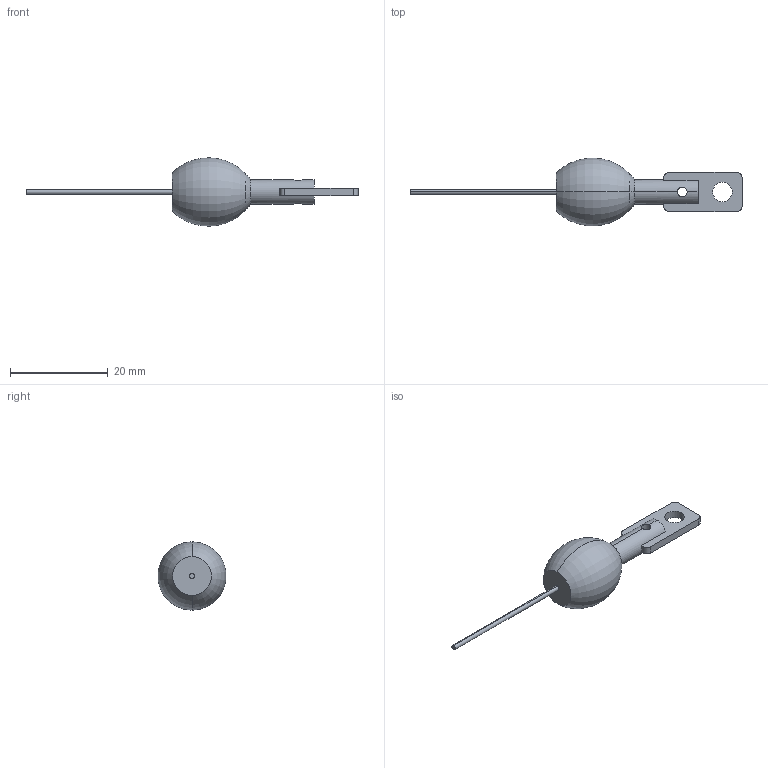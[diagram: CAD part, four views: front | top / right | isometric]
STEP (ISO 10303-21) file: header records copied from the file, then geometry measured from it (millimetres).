
FILE_DESCRIPTION (( 'STEP AP214' ), '1' );
FILE_NAME ('D-540_D-5400ƒtƒbƒN_Assem.STEP', '2024-06-20T23:44:43', ( '' ), ( '' ), 'SwSTEP 2.0', 'SolidWorks 2023', '' );
FILE_SCHEMA (( 'AUTOMOTIVE_DESIGN' ));
Length unit declared in the file: millimetre
Products named in the file (3): D-540_D-5400フック_Assem; D-540_D-5400_Part2; D-540_D-5400_Part3
Assembly tree (2 placements, depth 2):
  D-540_D-5400フック_Assem
    D-540_D-5400_Part2
    D-540_D-5400_Part3
Bounding box: 68 x 13.9 x 14 mm (x, y, z)
Volume: 2161.9 mm3; surface area: 1398.1 mm2
Topology: 3 solids, 3 shells, 32 faces, 78 edges, 50 vertices
Faces by surface type: cylinder 14, plane 14, torus 4
Entity records: 1121 total; most frequent: CARTESIAN_POINT 233, DIRECTION 186, ORIENTED_EDGE 156, EDGE_CURVE 78, AXIS2_PLACEMENT_3D 75, VERTEX_POINT 50, CIRCLE 38, LINE 36
